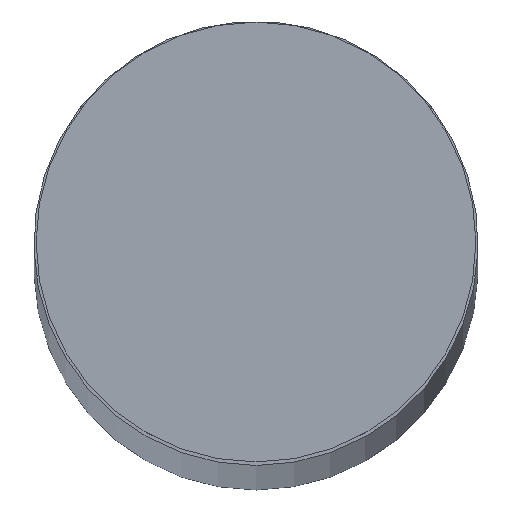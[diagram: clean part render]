
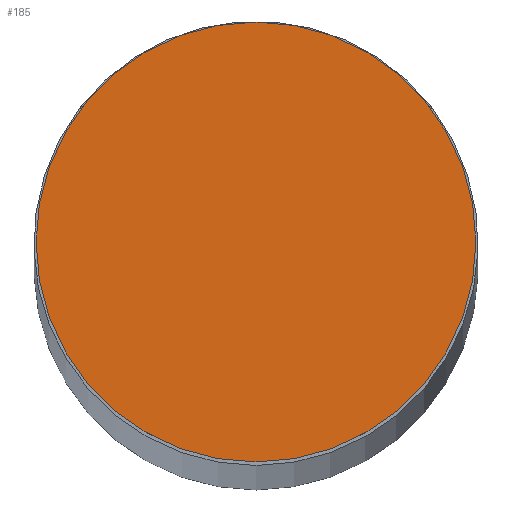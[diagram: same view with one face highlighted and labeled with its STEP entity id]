
A CAD part, top view. The second image highlights one B-rep face of the part: STEP entity #185.
In plain terms, the highlighted planar face has unit normal (0, 0, 1).
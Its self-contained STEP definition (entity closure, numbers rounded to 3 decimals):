
#38=FACE_OUTER_BOUND('',#52,.T.);
#52=EDGE_LOOP('',(#153));
#61=CIRCLE('',#226,12.575);
#96=VERTEX_POINT('',#330);
#115=EDGE_CURVE('',#96,#96,#61,.F.);
#153=ORIENTED_EDGE('',*,*,#115,.T.);
#172=PLANE('',#229);
#185=ADVANCED_FACE('',(#38),#172,.T.);
#226=AXIS2_PLACEMENT_3D('',#331,#274,#275);
#229=AXIS2_PLACEMENT_3D('',#337,#281,#282);
#274=DIRECTION('center_axis',(0.,0.,-1.));
#275=DIRECTION('ref_axis',(1.,0.,0.));
#281=DIRECTION('center_axis',(0.,0.,1.));
#282=DIRECTION('ref_axis',(1.,0.,0.));
#330=CARTESIAN_POINT('',(-12.575,0.,445.));
#331=CARTESIAN_POINT('Origin',(0.,0.,445.));
#337=CARTESIAN_POINT('Origin',(0.,0.,445.));
